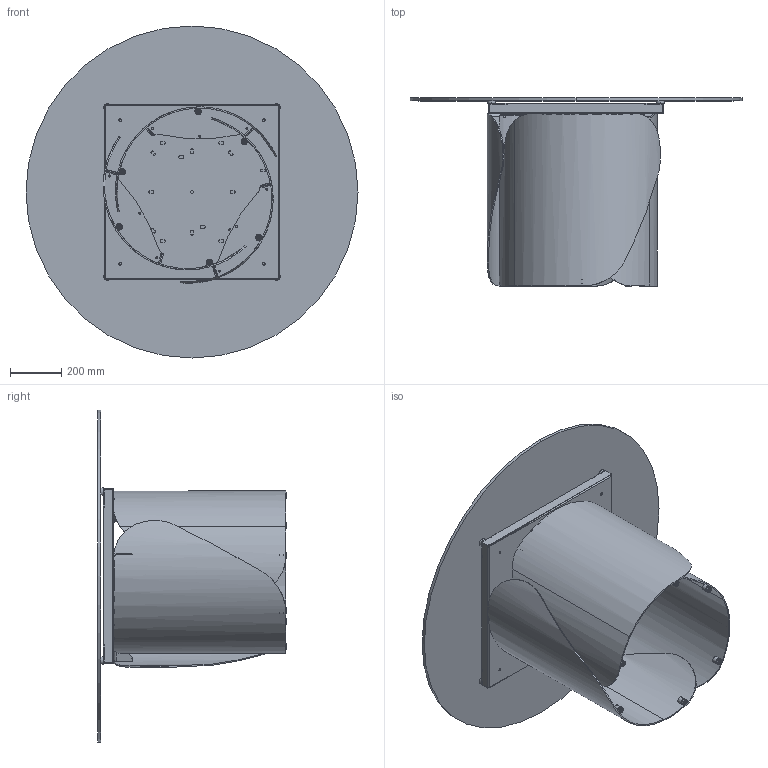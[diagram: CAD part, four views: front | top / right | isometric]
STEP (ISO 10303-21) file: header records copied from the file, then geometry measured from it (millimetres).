
FILE_DESCRIPTION (( 'STEP AP203' ), '1' );
FILE_NAME ('ON05G.STEP', '2024-08-06T13:28:01', ( '' ), ( '' ), 'SwSTEP 2.0', 'SolidWorks 2022', '' );
FILE_SCHEMA (( 'CONFIG_CONTROL_DESIGN' ));
Length unit declared in the file: millimetre
Products named in the file (15): TTAV0801 TELAIO UNIVERSALE TONDO-PIASTRINA; M8xXXmm_M8x20mm; COLLO BASE ONDA SINGOLA CON FERRAMENTA; COLLO TELAIO UNIVERSALE TTAV0801 CON FERRAMENTA_MTG TOP CRISTALLO VERNICIATO-CERAMICA; TTAV0801-02-TELAIO UNIVERSALE TONDO; TTAV0801-02-TELAIO UNIVERSALE TONDO-VASSOIO; 434070-00-PIEDINO TPV GOMMA NERO D. 30x8max18_filo estetico; C1XCRMXX-00-piani Rotondi Cristallo_C05 D.130cm; rondella M8_8X24; OND000000-03-ONDA BASE GREZZA; OND000000_01-00-PIASTRA SUPERIORE BASE ONDA; ON05G; OND000000_02-00-CILINDRO DI FISSAGGIO Ø25X17 M8; PIEDINO PER ONDA; OND000000_03-00-LAMIERA CURVATA PRINCIPALE_OND00000X-00-ONDA BASE GREZZA PROTOTIPO
Assembly tree (46 placements, depth 4):
  ON05G
    COLLO TELAIO UNIVERSALE TTAV0801 CON FERRAMENTA_MTG TOP CRISTALLO VERNICIATO-CERAMICA
      TTAV0801-02-TELAIO UNIVERSALE TONDO
        TTAV0801-02-TELAIO UNIVERSALE TONDO-VASSOIO
        TTAV0801 TELAIO UNIVERSALE TONDO-PIASTRINA  x4
      434070-00-PIEDINO TPV GOMMA NERO D. 30x8max18_filo estetico  x4
    COLLO BASE ONDA SINGOLA CON FERRAMENTA  x3
      OND000000-03-ONDA BASE GREZZA
        OND000000_03-00-LAMIERA CURVATA PRINCIPALE_OND00000X-00-ONDA BASE GREZZA PROTOTIPO
        OND000000_01-00-PIASTRA SUPERIORE BASE ONDA
        OND000000_02-00-CILINDRO DI FISSAGGIO Ø25X17 M8  x2
      PIEDINO PER ONDA
    rondella M8_8X24  x12
    M8xXXmm_M8x20mm  x12
    C1XCRMXX-00-piani Rotondi Cristallo_C05 D.130cm
Bounding box: 1300 x 738 x 1300 mm (x, y, z)
Volume: 26708731.5 mm3; surface area: 7343827.5 mm2
Topology: 62 solids, 62 shells, 1545 faces, 3651 edges, 2266 vertices
Faces by surface type: plane 626, cylinder 543, torus 184, cone 132, bspline 60
Entity records: 19338 total; most frequent: CARTESIAN_POINT 4513, DIRECTION 2655, ORIENTED_EDGE 2532, EDGE_CURVE 1266, AXIS2_PLACEMENT_3D 968, VERTEX_POINT 816, VECTOR 719, LINE 719
